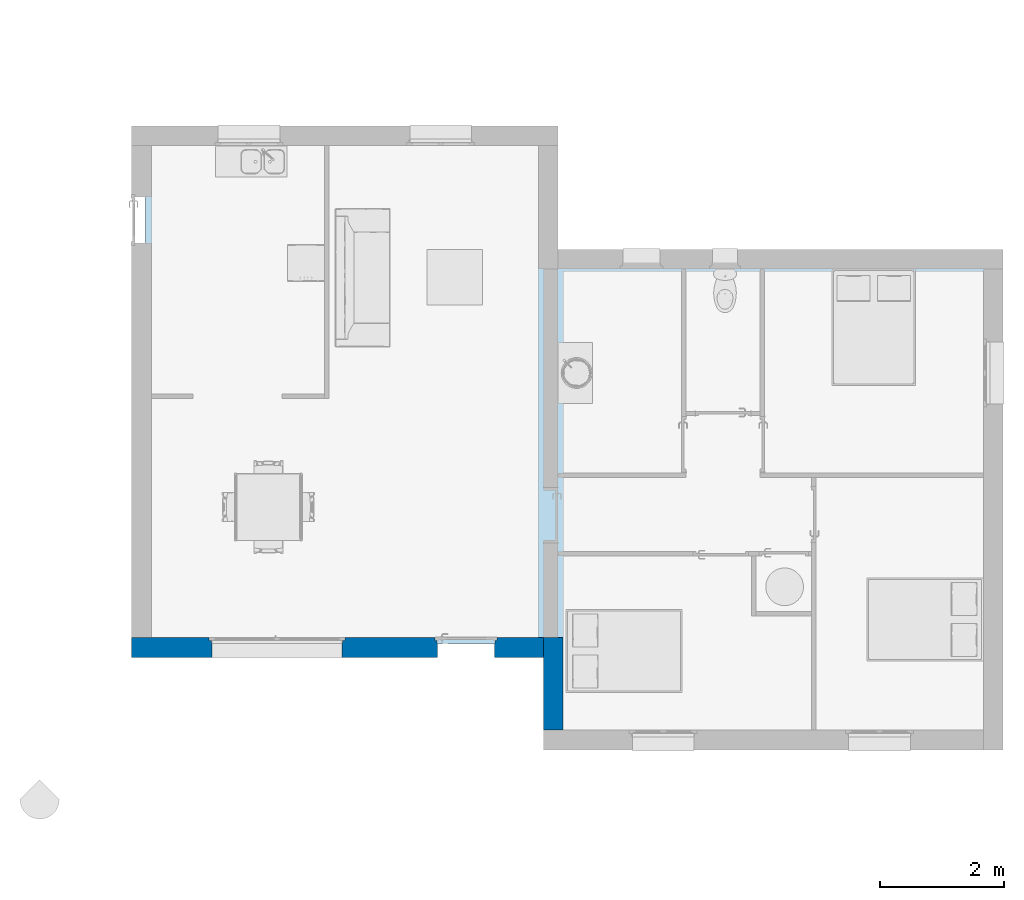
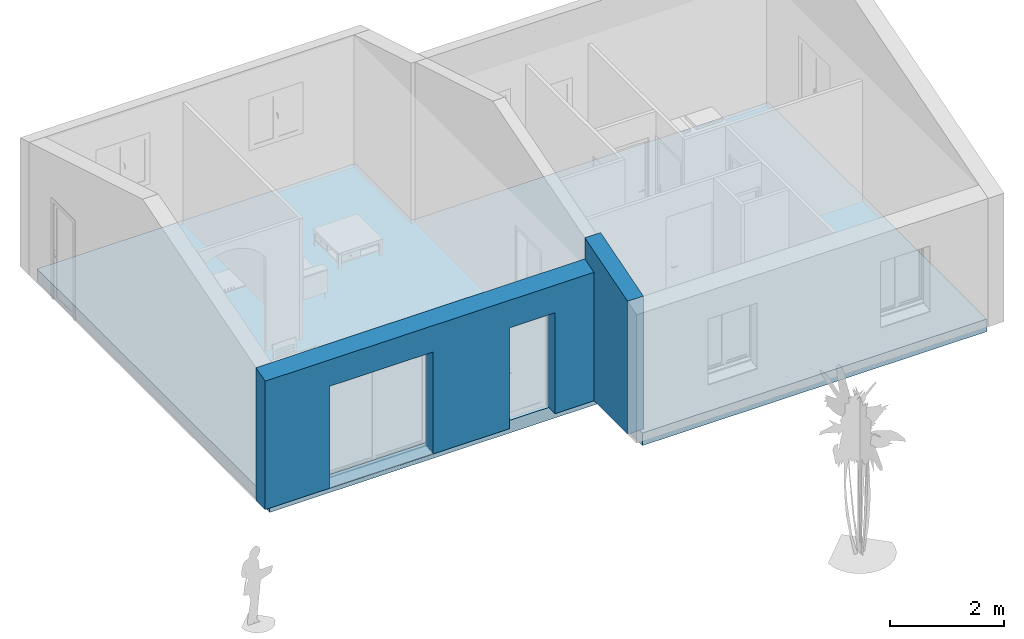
# One storey, part 1 of 18: 2 walls, 1 slab, 2 openings.
"""IFC2X3 building model written with IfcOpenShell, lengths in metres."""

from ifc_helpers import new_model, entity, si_unit, converted_unit, derived_unit, direction, frame, frame_2d, origin, place, context, subcontext, project, spatial, polyline, rectangle, outline, extrude, clip, bounded_halfspace, faceted_brep, material, layer, layer_set, layer_usage, type_object, element, save


model = new_model("IFC2X3")

# Units and contexts
model_context = context("Model", 3, precision=1e-05, world=origin(), true_north=direction((6.12303176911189e-17, 1.0)))
body_context = subcontext(model_context, "Body", "Model", "MODEL_VIEW")
ifc_project = project(units=[si_unit("LENGTHUNIT", "METRE"), si_unit("AREAUNIT", "SQUARE_METRE"), si_unit("VOLUMEUNIT", "CUBIC_METRE"), converted_unit("PLANEANGLEUNIT", "DEGREE", entity("IfcRatioMeasure", 0.0174532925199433), si_unit("PLANEANGLEUNIT", "RADIAN"), dimensions=[0, 0, 0, 0, 0, 0, 0]), si_unit("MASSUNIT", "GRAM", prefix="KILO"), derived_unit("MASSDENSITYUNIT", [(si_unit("MASSUNIT", "GRAM", prefix="KILO"), 1), (si_unit("LENGTHUNIT", "METRE"), -3)]), derived_unit("MOMENTOFINERTIAUNIT", [(si_unit("LENGTHUNIT", "METRE"), 4)]), si_unit("TIMEUNIT", "SECOND"), si_unit("FREQUENCYUNIT", "HERTZ"), si_unit("THERMODYNAMICTEMPERATUREUNIT", "DEGREE_CELSIUS"), derived_unit("THERMALTRANSMITTANCEUNIT", [(si_unit("MASSUNIT", "GRAM", prefix="KILO"), 1), (si_unit("THERMODYNAMICTEMPERATUREUNIT", "KELVIN"), -1), (si_unit("TIMEUNIT", "SECOND"), -3)]), derived_unit("VOLUMETRICFLOWRATEUNIT", [(si_unit("LENGTHUNIT", "METRE"), 3), (si_unit("TIMEUNIT", "SECOND"), -1)]), si_unit("ELECTRICCURRENTUNIT", "AMPERE"), si_unit("ELECTRICVOLTAGEUNIT", "VOLT"), si_unit("POWERUNIT", "WATT"), si_unit("FORCEUNIT", "NEWTON", prefix="KILO"), si_unit("ILLUMINANCEUNIT", "LUX"), si_unit("LUMINOUSFLUXUNIT", "LUMEN"), si_unit("LUMINOUSINTENSITYUNIT", "CANDELA"), derived_unit("USERDEFINED", [(si_unit("MASSUNIT", "GRAM", prefix="KILO"), -1), (si_unit("LENGTHUNIT", "METRE"), -2), (si_unit("TIMEUNIT", "SECOND"), 3), (si_unit("LUMINOUSFLUXUNIT", "LUMEN"), 1)]), derived_unit("LINEARVELOCITYUNIT", [(si_unit("LENGTHUNIT", "METRE"), 1), (si_unit("TIMEUNIT", "SECOND"), -1)]), si_unit("PRESSUREUNIT", "PASCAL"), derived_unit("USERDEFINED", [(si_unit("LENGTHUNIT", "METRE"), -2), (si_unit("MASSUNIT", "GRAM", prefix="KILO"), 1), (si_unit("TIMEUNIT", "SECOND"), -2)]), derived_unit("LINEARFORCEUNIT", [(si_unit("MASSUNIT", "GRAM", prefix="KILO"), 1), (si_unit("LENGTHUNIT", "METRE"), 1), (si_unit("TIMEUNIT", "SECOND"), -2), (si_unit("LENGTHUNIT", "METRE"), -1)]), derived_unit("PLANARFORCEUNIT", [(si_unit("MASSUNIT", "GRAM", prefix="KILO"), 1), (si_unit("LENGTHUNIT", "METRE"), 1), (si_unit("TIMEUNIT", "SECOND"), -2), (si_unit("LENGTHUNIT", "METRE"), -2)])], contexts=[model_context])

# Site, building, storey
site_placement = place(None, origin())
site = spatial("IfcSite", under=ifc_project, at=site_placement, Name="Surface", CompositionType="ELEMENT")
building_placement = place(site_placement, origin())
building = spatial("IfcBuilding", under=site, at=building_placement, CompositionType="ELEMENT")
storey_placement = place(building_placement, origin())
storey = spatial("IfcBuildingStorey", under=building, at=storey_placement, Name="RDC", CompositionType="ELEMENT", Elevation=-1.94916083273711e-14)

# Slab
ifc_material_1 = material(Name="carrelage")
ifc_layer_1 = layer(ifc_material_1, 0.07)
ifc_material_2 = material(Name="Maçonnerie - Béton")
ifc_layer_2 = layer(ifc_material_2, 0.2)
ifc_layer_set_1 = layer_set([ifc_layer_1, ifc_layer_2], Name="Sol:dalle béton 20 cm + 7 cm carrellage")
ifc_layer_usage_1 = layer_usage(ifc_layer_set_1, "AXIS3", "POSITIVE", 0.0)
slab_type = type_object("IfcSlabType", Name="Sol:dalle béton 20 cm + 7 cm carrellage", PredefinedType="FLOOR", material=ifc_layer_set_1)
slab_placement = place(storey_placement, origin())
element("IfcSlab", 1, at=slab_placement, inside=storey, type_object=slab_type, material=ifc_layer_usage_1, Name="Sol:dalle béton 20 cm + 7 cm carrellage", ObjectType="Sol:dalle béton 20 cm + 7 cm carrellage", PredefinedType="FLOOR", context=body_context, shape_type="SweptSolid", body=[
    extrude(outline(polyline([(-3.20499999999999, -6.695), (4.95500000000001, -6.695), (4.955, -0.255000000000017), (2.955, -0.254999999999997), (2.95499999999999, 6.965), (-4.70500000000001, 6.96500000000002), (-4.705, -0.0149999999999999), (-3.205, -0.014999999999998), (-3.20499999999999, -6.695)])), frame((-11.0932926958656, 3.81237977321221, 0.0), z_axis=(0.0, 0.0, -1.0), x_axis=(0.0, 1.0, 0.0)), (0.0, 0.0, 1.0), 0.27),
])

# Wall
ifc_material_3 = material(Name="Maçonnerie - Enduit")
ifc_layer_3 = layer(ifc_material_3, 0.02)
ifc_material_4 = material(Name="Blocs béton manufacturés")
ifc_layer_4 = layer(ifc_material_4, 0.2)
ifc_material_5 = material(Name="Maçonnerie - Isolant")
ifc_layer_5 = layer(ifc_material_5, 0.1)
ifc_layer_set_2 = layer_set([ifc_layer_3, ifc_layer_4, ifc_layer_5], Name="Mur de base:Ext. Parpaing 20 + Isolant 10")
ifc_layer_usage_2 = layer_usage(ifc_layer_set_2, "AXIS2", "NEGATIVE", 0.16)
wall_type = type_object("IfcWallType", Name="Mur de base:Ext. Parpaing 20 + Isolant 10", PredefinedType="STANDARD", material=ifc_layer_set_2)
wall_1_placement = place(storey_placement, frame((-11.1882926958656, -0.792620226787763, 0.0), z_axis=(0.0, 0.0, 1.0), x_axis=(0.0, 1.0, 0.0)))
element("IfcWallStandardCase", 2, at=wall_1_placement, inside=storey, type_object=wall_type, material=ifc_layer_usage_2, Name="Mur de base:Ext. Parpaing 20 + Isolant 10", ObjectType="Mur de base:Ext. Parpaing 20 + Isolant 10", context=body_context, shape_type="Clipping", body=[
    clip(extrude(rectangle(XDim=1.5, YDim=0.320000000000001, at=frame_2d((0.750000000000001, 0.0), x_axis=(-1.0, 0.0))), origin(), (0.0, 0.0, 1.0), 3.29600000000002), bounded_halfspace(frame((0.0, -0.16, 2.84600000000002), z_axis=(-0.287347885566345, 0.0, 0.957826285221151), x_axis=(0.0, -1.0, 0.0)), False, frame((0.0, -0.16, 2.84600000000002)), polyline([(0.0, 0.0), (1.5, 0.0), (1.5, 0.0799999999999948), (1.5, 0.320000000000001), (0.880000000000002, 0.320000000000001), (0.0, 0.320000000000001), (0.0, 0.0)]))),
])

# Wall, openings
ifc_layer_usage_3 = layer_usage(ifc_layer_set_2, "AXIS2", "NEGATIVE", 0.16)
wall_2_placement = place(storey_placement, frame((-11.3482926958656, 0.547379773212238, 0.0), z_axis=(0.0, 0.0, 1.0), x_axis=(-1.0, 0.0, 0.0)))
wall_2 = element("IfcWallStandardCase", 3, at=wall_2_placement, inside=storey, type_object=wall_type, material=ifc_layer_usage_3, Name="Mur de base:Ext. Parpaing 20 + Isolant 10", ObjectType="Mur de base:Ext. Parpaing 20 + Isolant 10", context=body_context, shape_type="Clipping", body=[
    clip(extrude(rectangle(XDim=6.66, YDim=0.32, at=frame_2d((3.33, 0.0), x_axis=(-1.0, 0.0))), origin(), (0.0, 0.0, 1.0), 2.84600000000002), bounded_halfspace(frame((0.0, -0.16, 2.84600000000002), z_axis=(0.0, 0.287347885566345, 0.957826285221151), x_axis=(-1.0, 0.0, 0.0)), False, frame((0.0, -0.16, 2.84600000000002)), polyline([(0.0, 0.0), (6.33999999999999, 0.0), (6.66, 0.0), (6.66, 0.32), (0.0, 0.32), (0.0, 0.0)]))),
])
opening_1_placement = place(wall_2_placement, frame((1.74999999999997, 0.460000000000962, 0.0), z_axis=(0.0, 0.0, 1.0), x_axis=(-1.0, 0.0, 0.0)))
element("IfcOpeningElement", 4, at=opening_1_placement, cuts=wall_2, Name="Mur de base:Ext. Parpaing 20 + Isolant 10", ObjectType="Opening", context=body_context, shape_type="Brep", body=[
    faceted_brep([(0.960000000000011, 0.920000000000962, 2.15999999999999), (0.0400000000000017, 0.920000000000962, 2.15999999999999), (0.0400000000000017, 0.628000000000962, 2.15999999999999), (0.960000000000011, 0.628000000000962, 2.15999999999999), (0.960000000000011, 0.0, 0.0), (0.0400000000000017, 0.0, 0.0), (0.0400000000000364, 0.520000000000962, 0.0), (0.0300000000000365, 0.520000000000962, 0.0), (0.0300000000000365, 0.568000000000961, 0.0), (0.0, 0.568000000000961, 0.0), (0.0, 0.628000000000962, 0.0), (0.0400000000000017, 0.628000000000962, 0.0), (0.0400000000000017, 0.920000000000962, 0.0), (0.960000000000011, 0.920000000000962, 0.0), (0.959999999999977, 0.628000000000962, 0.0), (1.0, 0.628000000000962, 0.0), (1.0, 0.568000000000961, 0.0), (0.969999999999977, 0.568000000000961, 0.0), (0.969999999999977, 0.520000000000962, 0.0), (0.960000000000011, 0.520000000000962, 0.0), (0.960000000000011, 0.0, 2.15999999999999), (0.0400000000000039, 0.0, 2.15999999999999), (0.0400000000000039, 0.520000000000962, 2.15999999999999), (0.0300000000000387, 0.568000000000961, 2.16999999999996), (0.969999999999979, 0.568000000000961, 2.16999999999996), (1.0, 0.568000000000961, 2.2), (0.0, 0.568000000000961, 2.2), (0.0300000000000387, 0.520000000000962, 2.16999999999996), (0.960000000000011, 0.520000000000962, 2.15999999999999), (0.969999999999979, 0.520000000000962, 2.16999999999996), (0.0, 0.628000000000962, 2.2), (1.0, 0.628000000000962, 2.2)], [[[0, 1, 2, 3]], [[4, 5, 6, 7, 8, 9, 10, 11, 12, 13, 14, 15, 16, 17, 18, 19]], [[13, 0, 3, 14]], [[20, 21, 5, 4]], [[5, 21, 22, 6]], [[1, 0, 13, 12]], [[9, 8, 23, 24, 17, 16, 25, 26]], [[8, 7, 27, 23]], [[7, 6, 22, 28, 19, 18, 29, 27]], [[11, 10, 30, 31, 15, 14, 3, 2]], [[10, 9, 26, 30]], [[24, 23, 27, 29]], [[26, 25, 31, 30]], [[17, 24, 29, 18]], [[25, 16, 15, 31]], [[1, 12, 11, 2]], [[20, 4, 19, 28]], [[21, 20, 28, 22]]]),
])
opening_2_placement = place(wall_2_placement, frame((5.41, 0.500000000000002, 0.0), z_axis=(0.0, 0.0, 1.0), x_axis=(-1.0, 0.0, 0.0)))
element("IfcOpeningElement", 5, at=opening_2_placement, cuts=wall_2, Name="Mur de base:Ext. Parpaing 20 + Isolant 10", ObjectType="Opening", context=body_context, shape_type="Brep", body=[
    faceted_brep([(2.15, 0.579999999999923, 0.0350000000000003), (2.15, 0.559999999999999, 0.0350000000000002), (2.15, 0.559999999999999, 2.185), (2.15, 0.0, 2.185), (2.15, 0.0, 0.0), (2.15, 0.246997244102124, 0.0), (0.0499999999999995, 1.0, 0.0350000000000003), (0.0499999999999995, 0.660000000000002, 0.0350000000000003), (0.0499999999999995, 0.660000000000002, 2.185), (0.0499999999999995, 1.0, 2.185), (2.15, 1.0, 0.0350000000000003), (2.15, 0.660000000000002, 0.0350000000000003), (2.2, 0.660000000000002, 0.0350000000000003), (2.2, 0.610000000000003, 0.0350000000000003), (2.16, 0.610000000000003, 0.0350000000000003), (2.16, 0.559999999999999, 0.0350000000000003), (0.0499999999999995, 0.579999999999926, 0.035), (0.0499999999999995, 0.559999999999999, 0.0350000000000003), (0.0399999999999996, 0.559999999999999, 0.0350000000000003), (0.0399999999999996, 0.610000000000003, 0.0350000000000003), (0.0, 0.610000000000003, 0.0350000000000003), (0.0, 0.660000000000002, 0.0350000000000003), (2.15, 1.0, 2.185), (0.0499999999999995, 0.56, 2.185), (0.0499999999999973, 0.0, 2.185), (0.0499999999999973, 0.0, 0.0), (0.0499999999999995, 0.246997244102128, 0.0), (2.2, 0.660000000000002, 2.235), (2.2, 0.610000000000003, 2.235), (0.0, 0.610000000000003, 2.235), (0.0399999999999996, 0.610000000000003, 2.195), (2.16, 0.610000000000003, 2.195), (2.16, 0.559999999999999, 2.195), (0.0399999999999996, 0.559999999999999, 2.195), (2.15, 0.660000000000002, 2.185), (0.0, 0.660000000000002, 2.235)], [[[0, 1, 2, 3, 4, 5]], [[6, 7, 8, 9]], [[10, 11, 12, 13, 14, 15, 1, 0, 16, 17, 18, 19, 20, 21, 7, 6]], [[10, 6, 9, 22]], [[3, 2, 23, 24]], [[3, 24, 25, 4]], [[4, 25, 26, 5]], [[5, 26, 16, 0]], [[12, 27, 28, 13]], [[13, 28, 29, 20, 19, 30, 31, 14]], [[14, 31, 32, 15]], [[15, 32, 33, 18, 17, 23, 2, 1]], [[11, 34, 8, 7, 21, 35, 27, 12]], [[27, 35, 29, 28]], [[30, 33, 32, 31]], [[29, 35, 21, 20]], [[19, 18, 33, 30]], [[9, 8, 34, 22]], [[24, 23, 17, 16, 26, 25]], [[22, 34, 11, 10]]]),
])

save(model, "model.ifc")
